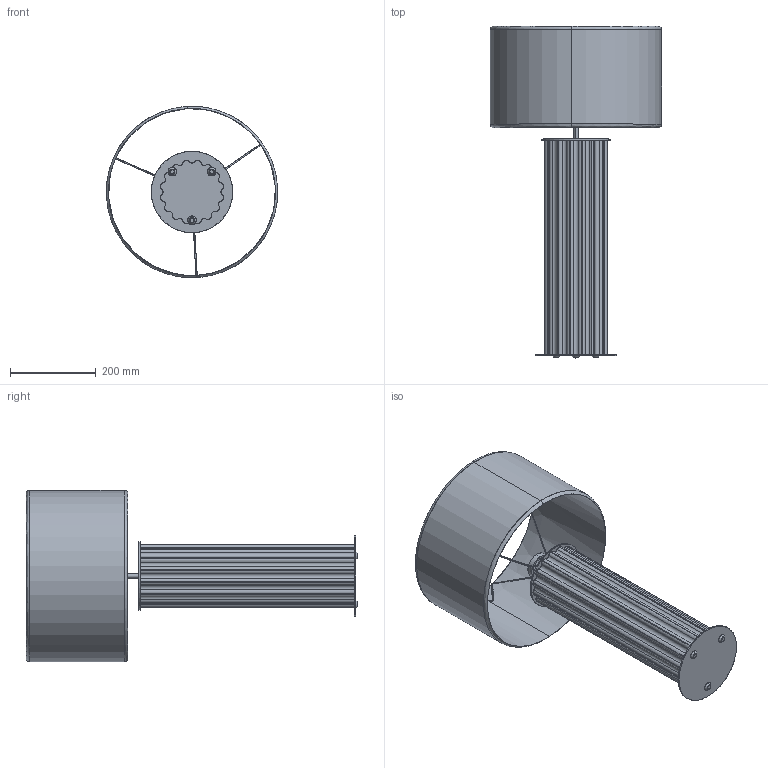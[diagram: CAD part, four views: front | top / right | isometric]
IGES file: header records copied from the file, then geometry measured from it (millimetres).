
Start section: SolidWorks IGES file using analytic representation for surfaces
Global section: file name: C:\Users\Maripaz\Desktop\NAC 114\NAC 114.IGS; native system: SolidWorks 2017; preprocessor: SolidWorks 2017; author: Maripaz; date: 190304.165812; units: millimetre
Bounding box: 399.72 x 774.45 x 399.99 mm (x, y, z)
Surface area: 1009707.1 mm2 (no closed solid volume)
Topology: 0 solids, 0 shells, 156 faces, 2202 edges, 2202 vertices
Faces by surface type: revolution 95, bspline 61
